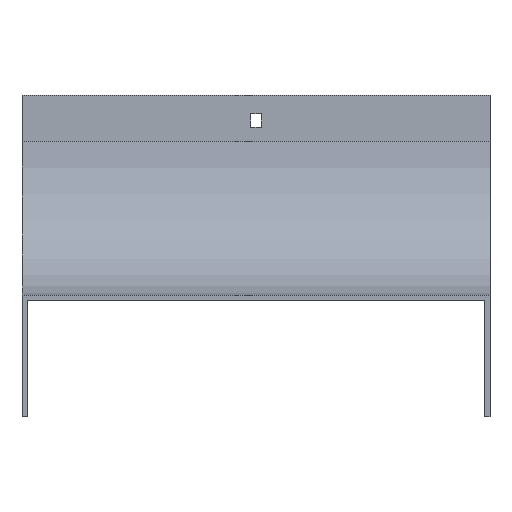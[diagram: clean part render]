
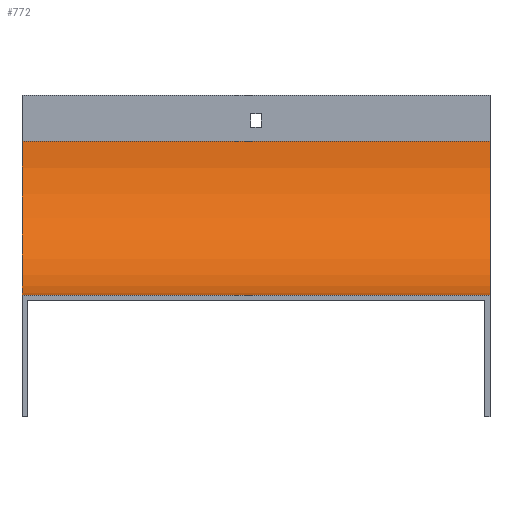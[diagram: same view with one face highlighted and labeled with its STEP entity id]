
A CAD part, front view. The second image highlights one B-rep face of the part: STEP entity #772.
In plain terms, the highlighted cylindrical face has radius 100 mm (diameter 200 mm), a partial arc.
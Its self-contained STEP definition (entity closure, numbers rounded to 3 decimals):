
#131 = ORIENTED_EDGE ( 'NONE', *, *, #1631, .T. ) ;
#180 = CYLINDRICAL_SURFACE ( 'NONE', #785, 100. ) ;
#181 = VERTEX_POINT ( 'NONE', #1496 ) ;
#211 = DIRECTION ( 'NONE',  ( -1., 0., 0. ) ) ;
#305 = EDGE_CURVE ( 'NONE', #823, #894, #376, .T. ) ;
#336 = CIRCLE ( 'NONE', #701, 100. ) ;
#371 = EDGE_LOOP ( 'NONE', ( #131, #1274, #1189, #1066 ) ) ;
#376 = LINE ( 'NONE', #1575, #1110 ) ;
#429 = DIRECTION ( 'NONE',  ( 0., 0., 1. ) ) ;
#441 = VERTEX_POINT ( 'NONE', #847 ) ;
#526 = DIRECTION ( 'NONE',  ( -1., 0., 0. ) ) ;
#701 = AXIS2_PLACEMENT_3D ( 'NONE', #1736, #526, #1396 ) ;
#761 = VECTOR ( 'NONE', #211, 1000. ) ;
#772 = ADVANCED_FACE ( 'NONE', ( #1035 ), #180, .F. ) ;
#785 = AXIS2_PLACEMENT_3D ( 'NONE', #1065, #1196, #1680 ) ;
#823 = VERTEX_POINT ( 'NONE', #1859 ) ;
#847 = CARTESIAN_POINT ( 'NONE',  ( 152., -100., -130. ) ) ;
#894 = VERTEX_POINT ( 'NONE', #1900 ) ;
#927 = CIRCLE ( 'NONE', #1849, 100. ) ;
#1035 = FACE_OUTER_BOUND ( 'NONE', #371, .T. ) ;
#1065 = CARTESIAN_POINT ( 'NONE',  ( 152., -100., -30. ) ) ;
#1066 = ORIENTED_EDGE ( 'NONE', *, *, #305, .T. ) ;
#1097 = LINE ( 'NONE', #1699, #761 ) ;
#1110 = VECTOR ( 'NONE', #1241, 1000. ) ;
#1147 = EDGE_CURVE ( 'NONE', #823, #441, #336, .T. ) ;
#1189 = ORIENTED_EDGE ( 'NONE', *, *, #1147, .F. ) ;
#1196 = DIRECTION ( 'NONE',  ( -1., 0., 0. ) ) ;
#1241 = DIRECTION ( 'NONE',  ( -1., 0., 0. ) ) ;
#1243 = EDGE_CURVE ( 'NONE', #441, #181, #1097, .T. ) ;
#1274 = ORIENTED_EDGE ( 'NONE', *, *, #1243, .F. ) ;
#1396 = DIRECTION ( 'NONE',  ( 0., 0., 1. ) ) ;
#1481 = DIRECTION ( 'NONE',  ( -1., 0., 0. ) ) ;
#1496 = CARTESIAN_POINT ( 'NONE',  ( -152., -100., -130. ) ) ;
#1575 = CARTESIAN_POINT ( 'NONE',  ( 152., 0., -30. ) ) ;
#1631 = EDGE_CURVE ( 'NONE', #894, #181, #927, .T. ) ;
#1680 = DIRECTION ( 'NONE',  ( 0., 0., 1. ) ) ;
#1699 = CARTESIAN_POINT ( 'NONE',  ( 152., -100., -130. ) ) ;
#1736 = CARTESIAN_POINT ( 'NONE',  ( 152., -100., -30. ) ) ;
#1766 = CARTESIAN_POINT ( 'NONE',  ( -152., -100., -30. ) ) ;
#1849 = AXIS2_PLACEMENT_3D ( 'NONE', #1766, #1481, #429 ) ;
#1859 = CARTESIAN_POINT ( 'NONE',  ( 152., 0., -30. ) ) ;
#1900 = CARTESIAN_POINT ( 'NONE',  ( -152., 0., -30. ) ) ;
